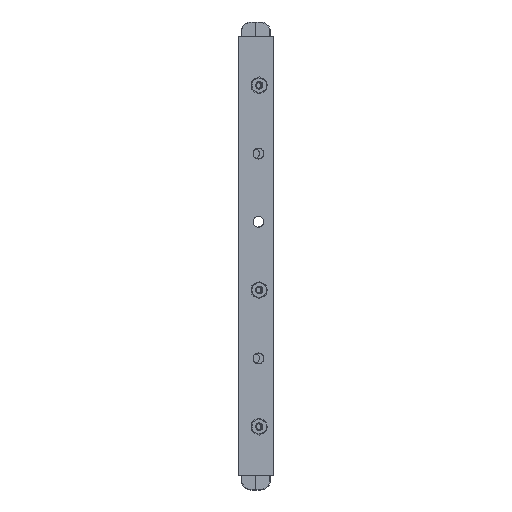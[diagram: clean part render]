
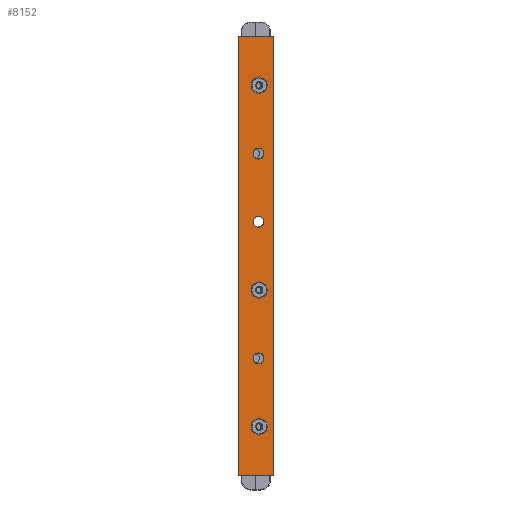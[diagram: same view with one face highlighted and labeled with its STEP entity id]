
A CAD part, front view. The second image highlights one B-rep face of the part: STEP entity #8152.
In plain terms, the highlighted planar face has unit normal (0.018, -1, 0).
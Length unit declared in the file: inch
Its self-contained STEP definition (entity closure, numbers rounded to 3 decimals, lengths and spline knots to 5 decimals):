
#1053=LINE('',#23702,#1575);
#1059=LINE('',#23713,#1581);
#1061=LINE('',#23716,#1583);
#1062=LINE('',#23751,#1584);
#1575=VECTOR('',#11041,0.875);
#1581=VECTOR('',#11053,0.875);
#1583=VECTOR('',#11057,11.25);
#1584=VECTOR('',#11114,11.25);
#1771=PLANE('',#8981);
#1816=FACE_BOUND('',#3134,.T.);
#1817=FACE_BOUND('',#3135,.T.);
#1818=FACE_BOUND('',#3136,.T.);
#1819=FACE_BOUND('',#3137,.T.);
#1820=FACE_BOUND('',#3138,.T.);
#1821=FACE_BOUND('',#3139,.T.);
#2128=CIRCLE('',#8955,0.138);
#2129=CIRCLE('',#8957,0.138);
#2130=CIRCLE('',#8959,0.138);
#2131=CIRCLE('',#8961,0.138);
#2132=CIRCLE('',#8963,0.138);
#2133=CIRCLE('',#8965,0.138);
#2614=FACE_OUTER_BOUND('',#3133,.T.);
#3133=EDGE_LOOP('',(#7552,#7553,#7554,#7555));
#3134=EDGE_LOOP('',(#7556));
#3135=EDGE_LOOP('',(#7557));
#3136=EDGE_LOOP('',(#7558));
#3137=EDGE_LOOP('',(#7559));
#3138=EDGE_LOOP('',(#7560));
#3139=EDGE_LOOP('',(#7561));
#4062=VERTEX_POINT('',#23699);
#4063=VERTEX_POINT('',#23701);
#4064=VERTEX_POINT('',#23710);
#4065=VERTEX_POINT('',#23712);
#4066=VERTEX_POINT('',#23718);
#4067=VERTEX_POINT('',#23721);
#4068=VERTEX_POINT('',#23724);
#4069=VERTEX_POINT('',#23727);
#4070=VERTEX_POINT('',#23730);
#4071=VERTEX_POINT('',#23733);
#5234=EDGE_CURVE('',#4063,#4062,#1053,.T.);
#5240=EDGE_CURVE('',#4065,#4064,#1059,.T.);
#5242=EDGE_CURVE('',#4063,#4064,#1061,.T.);
#5243=EDGE_CURVE('',#4066,#4066,#2128,.T.);
#5244=EDGE_CURVE('',#4067,#4067,#2129,.T.);
#5245=EDGE_CURVE('',#4068,#4068,#2130,.T.);
#5246=EDGE_CURVE('',#4069,#4069,#2131,.T.);
#5247=EDGE_CURVE('',#4070,#4070,#2132,.T.);
#5248=EDGE_CURVE('',#4071,#4071,#2133,.T.);
#5249=EDGE_CURVE('',#4062,#4065,#1062,.T.);
#7552=ORIENTED_EDGE('',*,*,#5234,.T.);
#7553=ORIENTED_EDGE('',*,*,#5249,.T.);
#7554=ORIENTED_EDGE('',*,*,#5240,.T.);
#7555=ORIENTED_EDGE('',*,*,#5242,.F.);
#7556=ORIENTED_EDGE('',*,*,#5243,.T.);
#7557=ORIENTED_EDGE('',*,*,#5244,.T.);
#7558=ORIENTED_EDGE('',*,*,#5245,.T.);
#7559=ORIENTED_EDGE('',*,*,#5246,.T.);
#7560=ORIENTED_EDGE('',*,*,#5247,.T.);
#7561=ORIENTED_EDGE('',*,*,#5248,.T.);
#8152=ADVANCED_FACE('',(#2614,#1816,#1817,#1818,#1819,#1820,#1821),#1771,
 .T.);
#8955=AXIS2_PLACEMENT_3D('',#23719,#11060,#11061);
#8957=AXIS2_PLACEMENT_3D('',#23722,#11064,#11065);
#8959=AXIS2_PLACEMENT_3D('',#23725,#11068,#11069);
#8961=AXIS2_PLACEMENT_3D('',#23728,#11072,#11073);
#8963=AXIS2_PLACEMENT_3D('',#23731,#11076,#11077);
#8965=AXIS2_PLACEMENT_3D('',#23734,#11080,#11081);
#8981=AXIS2_PLACEMENT_3D('',#23750,#11112,#11113);
#11041=DIRECTION('',(1.,0.017,0.));
#11053=DIRECTION('',(-1.,-0.017,0.));
#11057=DIRECTION('',(0.,0.,1.));
#11060=DIRECTION('center_axis',(-0.017,1.,0.));
#11061=DIRECTION('ref_axis',(1.,0.017,0.));
#11064=DIRECTION('center_axis',(-0.017,1.,0.));
#11065=DIRECTION('ref_axis',(1.,0.017,0.));
#11068=DIRECTION('center_axis',(-0.017,1.,0.));
#11069=DIRECTION('ref_axis',(1.,0.017,0.));
#11072=DIRECTION('center_axis',(-0.017,1.,0.));
#11073=DIRECTION('ref_axis',(1.,0.017,0.));
#11076=DIRECTION('center_axis',(-0.017,1.,0.));
#11077=DIRECTION('ref_axis',(1.,0.017,0.));
#11080=DIRECTION('center_axis',(-0.017,1.,0.));
#11081=DIRECTION('ref_axis',(1.,0.017,0.));
#11112=DIRECTION('center_axis',(0.017,-1.,0.));
#11113=DIRECTION('ref_axis',(0.,0.,-1.));
#11114=DIRECTION('',(0.,0.,1.));
#23699=CARTESIAN_POINT('',(0.37487,-0.07848,0.5));
#23701=CARTESIAN_POINT('',(-0.5,-0.09375,0.5));
#23702=CARTESIAN_POINT('',(0.15371,-0.08234,0.5));
#23710=CARTESIAN_POINT('',(-0.5,-0.09375,11.75));
#23712=CARTESIAN_POINT('',(0.37487,-0.07848,11.75));
#23713=CARTESIAN_POINT('',(0.15371,-0.08234,11.75));
#23716=CARTESIAN_POINT('',(-0.5,-0.09375,0.));
#23718=CARTESIAN_POINT('',(0.1379,-0.08262,10.5));
#23719=CARTESIAN_POINT('Origin',(-0.00008,-0.08502,
10.5));
#23721=CARTESIAN_POINT('',(0.1379,-0.08262,8.75));
#23722=CARTESIAN_POINT('Origin',(-0.00008,-0.08502,
8.75));
#23724=CARTESIAN_POINT('',(0.1379,-0.08262,7.));
#23725=CARTESIAN_POINT('Origin',(-0.00008,-0.08502,
7.));
#23727=CARTESIAN_POINT('',(0.1379,-0.08262,5.25));
#23728=CARTESIAN_POINT('Origin',(-0.00008,-0.08502,
5.25));
#23730=CARTESIAN_POINT('',(0.1379,-0.08262,3.5));
#23731=CARTESIAN_POINT('Origin',(-0.00008,-0.08502,
3.5));
#23733=CARTESIAN_POINT('',(0.1379,-0.08262,1.75));
#23734=CARTESIAN_POINT('Origin',(-0.00008,-0.08502,
1.75));
#23750=CARTESIAN_POINT('Origin',(0.37487,-0.07848,
0.));
#23751=CARTESIAN_POINT('',(0.37487,-0.07848,0.));
